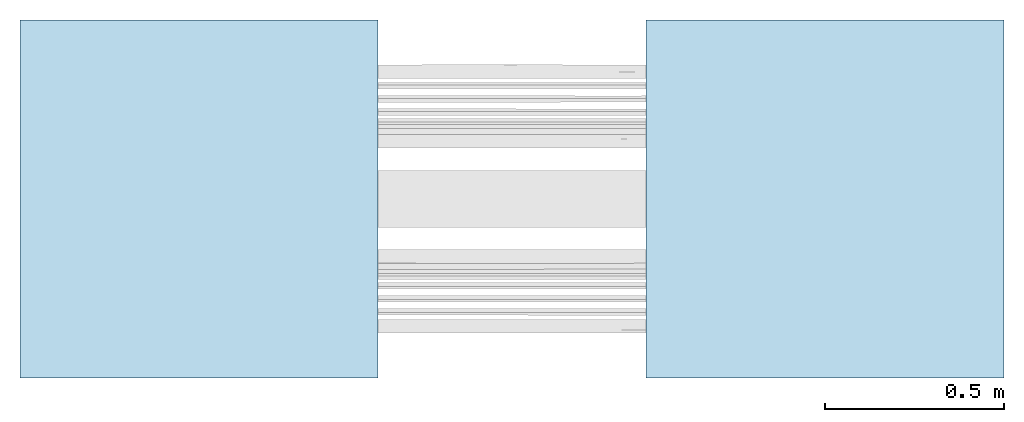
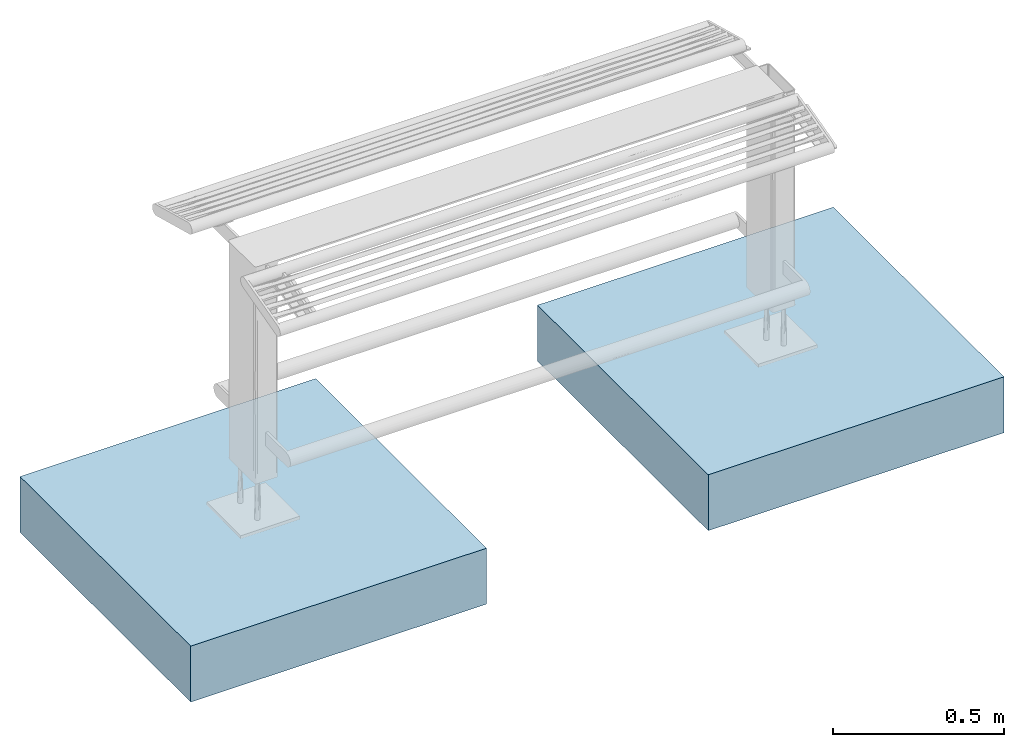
# One storey, incomplete: 2 slabs.
"""IFC4 building model written with IfcOpenShell, lengths in metres."""

from ifc_helpers import new_model, entity, si_unit, converted_unit, direction, frame, frame_2d, origin, origin_2d_with_axis, place, context, subcontext, project, spatial, rectangle, extrude, material, type_object, element, save


model = new_model("IFC4")

# Units and contexts
model_context = context("Model", 3, precision=1e-05, world=origin(), true_north=direction((6.123031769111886e-17, 1.0)))
body_context = subcontext(model_context, "Body", "Model", "MODEL_VIEW")
ifc_project = project(units=[si_unit("LENGTHUNIT", "METRE"), converted_unit("PLANEANGLEUNIT", "DEGREE", entity("IfcPlaneAngleMeasure", 0.017453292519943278), si_unit("PLANEANGLEUNIT", "RADIAN"), dimensions=[0, 0, 0, 0, 0, 0, 0]), si_unit("AREAUNIT", "SQUARE_METRE")], contexts=[model_context])

# Site, building, storey
site_placement = place(None, origin())
site = spatial("IfcSite", under=ifc_project, at=site_placement, Name="Default", CompositionType="ELEMENT")
building_placement = place(site_placement, origin())
building = spatial("IfcBuilding", under=site, at=building_placement, CompositionType="ELEMENT")
storey_placement = place(building_placement, origin())
storey = spatial("IfcBuildingStorey", under=building, at=storey_placement, Name="Ebene 0", CompositionType="ELEMENT", Elevation=0.0)

# Slabs
ifc_material = material(Name="DB_Fertigbeton", Category="DB_Beton")
slab_type = type_object("IfcSlabType", Name="DB_Calidum_light_Fundament:DB_Calidum_light_Fundament", PredefinedType="BASESLAB", material=ifc_material)
slab_1_placement = place(storey_placement, origin())
element("IfcSlab", 1, at=slab_1_placement, inside=storey, type_object=slab_type, Name="DB_Calidum_light_Fundament:DB_Calidum_light_Fundament", ObjectType="DB_Calidum_light_Fundament:DB_Calidum_light_Fundament", PredefinedType="BASESLAB", context=body_context, shape_type="SweptSolid", body=[
    extrude(rectangle(XDim=0.9999999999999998, YDim=0.9999999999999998, at=origin_2d_with_axis()), frame((0.0, 0.0, -0.3619999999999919), z_axis=(0.0, 0.0, 1.0), x_axis=(0.0, 1.0, 0.0)), (0.0, 0.0, 1.0), 0.2),
])
slab_2_placement = place(storey_placement, origin())
element("IfcSlab", 2, at=slab_2_placement, inside=storey, type_object=slab_type, Name="DB_Calidum_light_Fundament:DB_Calidum_light_Fundament", ObjectType="DB_Calidum_light_Fundament:DB_Calidum_light_Fundament", PredefinedType="BASESLAB", context=body_context, shape_type="SweptSolid", body=[
    extrude(rectangle(XDim=0.9999999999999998, YDim=0.9999999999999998, at=frame_2d((0.0, 1.1102230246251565e-16), x_axis=(1.0, 0.0))), frame((-1.7500000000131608, 0.0, -0.3619999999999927), z_axis=(0.0, 0.0, 1.0), x_axis=(0.0, 1.0, 0.0)), (0.0, 0.0, 1.0), 0.2),
])

save(model, "model.ifc")
